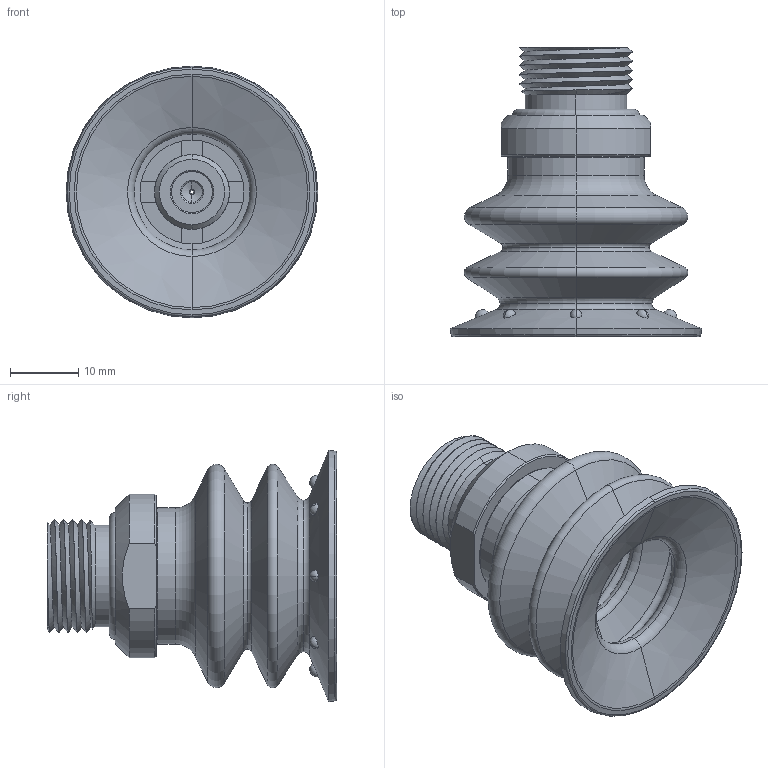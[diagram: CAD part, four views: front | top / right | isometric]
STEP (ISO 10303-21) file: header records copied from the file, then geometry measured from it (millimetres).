
FILE_DESCRIPTION (( 'STEP AP214' ), '1' );
FILE_NAME ('96 35--38D-2-GIC .step', '2024-12-13T15:01:09', ( '' ), ( '' ), 'SwSTEP 2.0', 'SolidWorks 2021', '' );
FILE_SCHEMA (( 'AUTOMOTIVE_DESIGN' ));
Length unit declared in the file: millimetre
Products named in the file (1): 96 35--38D-2-GIC 
Bounding box: 37 x 42.5 x 37 mm (x, y, z)
Volume: 10772.8 mm3; surface area: 11564 mm2
Topology: 5 solids, 5 shells, 1573 faces, 4659 edges, 2398 vertices
Faces by surface type: cylinder 1417, torus 64, cone 51, plane 39, bspline 2
Entity records: 54482 total; most frequent: CARTESIAN_POINT 21119, ORIENTED_EDGE 9240, DIRECTION 5271, EDGE_CURVE 4620, VERTEX_POINT 2394, AXIS2_PLACEMENT_3D 1916, EDGE_LOOP 1600, ADVANCED_FACE 1573
